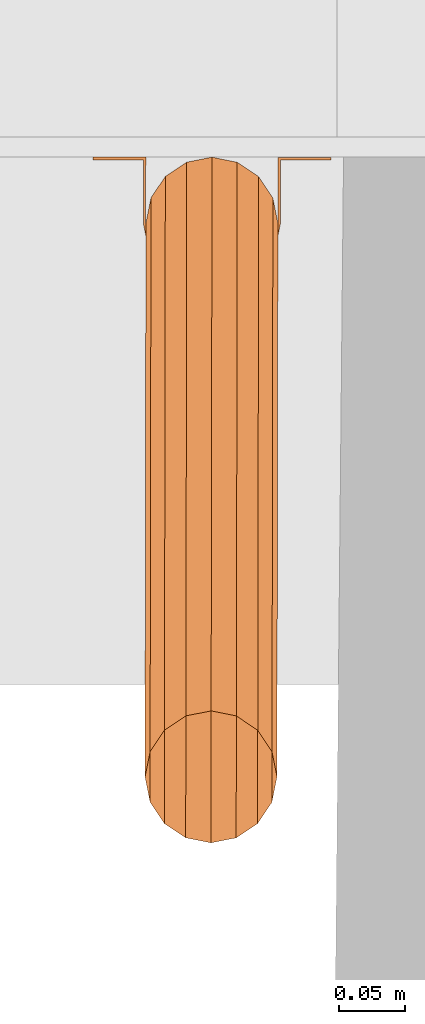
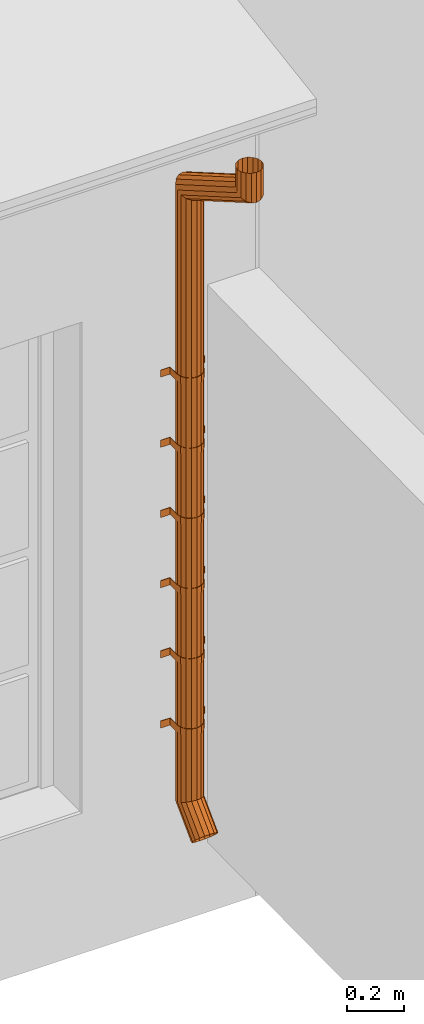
# One storey, part 24 of 24: 1 proxy.
"""IFC2X3 building model written with IfcOpenShell, lengths in metres."""

from ifc_helpers import new_model, entity, si_unit, converted_unit, derived_unit, money_unit, direction, frame, origin_with_axes, place, context, subcontext, project, spatial, open_shell, faceted_brep, surface_model, type_object, element, save


model = new_model("IFC2X3")

# Units and contexts
model_context = context("Model", 3, precision=1e-05, world=origin_with_axes(), true_north=direction((0.0, 1.0)))
body_context = subcontext(model_context, "Body", "Model", "MODEL_VIEW")
ifc_project = project(units=[si_unit("LENGTHUNIT", "METRE"), si_unit("AREAUNIT", "SQUARE_METRE"), si_unit("VOLUMEUNIT", "CUBIC_METRE"), converted_unit("PLANEANGLEUNIT", "DEGREE", entity("IfcPlaneAngleMeasure", 0.0174532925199), si_unit("PLANEANGLEUNIT", "RADIAN"), dimensions=[0, 0, 0, 0, 0, 0, 0]), si_unit("SOLIDANGLEUNIT", "STERADIAN"), money_unit("CHF"), converted_unit("TIMEUNIT", "Year", entity("IfcTimeMeasure", 31556926.0), si_unit("TIMEUNIT", "SECOND"), dimensions=[0, 0, 1, 0, 0, 0, 0]), si_unit("MASSUNIT", "GRAM", prefix="KILO"), si_unit("THERMODYNAMICTEMPERATUREUNIT", "DEGREE_CELSIUS"), si_unit("LUMINOUSINTENSITYUNIT", "LUMEN"), si_unit("ENERGYUNIT", "JOULE", prefix="MEGA"), derived_unit("THERMALCONDUCTANCEUNIT", [(si_unit("POWERUNIT", "WATT"), 1), (si_unit("LENGTHUNIT", "METRE"), -1), (si_unit("THERMODYNAMICTEMPERATUREUNIT", "KELVIN"), -1)]), derived_unit("SPECIFICHEATCAPACITYUNIT", [(si_unit("ENERGYUNIT", "JOULE"), 1), (si_unit("MASSUNIT", "GRAM", prefix="KILO"), -1), (si_unit("THERMODYNAMICTEMPERATUREUNIT", "KELVIN"), -1)]), derived_unit("MASSDENSITYUNIT", [(si_unit("MASSUNIT", "GRAM", prefix="KILO"), 1), (si_unit("VOLUMEUNIT", "CUBIC_METRE"), -1)])], contexts=[model_context])

# Site, building, storey
site_placement = place(None, origin_with_axes())
site = spatial("IfcSite", under=ifc_project, at=site_placement, Name="Site", CompositionType="ELEMENT")
building_placement = place(site_placement, origin_with_axes())
building = spatial("IfcBuilding", under=site, at=building_placement, Name="Bâtiment", CompositionType="ELEMENT")
storey_placement = place(building_placement, origin_with_axes())
storey = spatial("IfcBuildingStorey", under=building, at=storey_placement, Name="Rez-de-chaussée", CompositionType="ELEMENT", Elevation=0.0)

# Proxy
building_element_proxy_type = type_object("IfcBuildingElementProxyType", Name="Tuyau descente complexe 24", PredefinedType="USERDEFINED")
proxy_placement = place(storey_placement, frame((31.1773585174, 7.6876498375, -0.187059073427), z_axis=(0.0, 0.0, 1.0), x_axis=(0.999998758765, -0.00157558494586, 0.0)))
element("IfcBuildingElementProxy", 1, at=proxy_placement, inside=storey, type_object=building_element_proxy_type, Name="MOBILIER-004", ObjectType="CONSTRUCTION ELEMENT", context=body_context, shape_type="SurfaceModel", body=[
    surface_model("IfcShellBasedSurfaceModel", [(-0.05, 0.0, 0.241421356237), (-0.0461939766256, 0.0191341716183, 0.241421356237), (-0.0461939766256, 0.0191341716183, 0.133495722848), (-0.05, 0.0, 0.141421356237), (-0.0353553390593, 0.0353553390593, 0.241421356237), (-0.0353553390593, 0.0353553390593, 0.126776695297), (-0.0461939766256, -0.0925361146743, 0.0218254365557), (-0.05, -0.106066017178, 0.0353553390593), (-0.0461939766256, -0.0191341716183, 0.241421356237), (-0.0461939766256, -0.0191341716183, 0.149346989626), (-0.0191341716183, 0.0461939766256, 0.241421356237), (-0.0191341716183, 0.0461939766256, 0.122287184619), (-0.0353553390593, -0.081066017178, 0.0103553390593), (-0.0461939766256, -0.119595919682, 0.048885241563), (-0.0353553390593, -0.0353553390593, 0.241421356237), (-0.0353553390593, -0.0353553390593, 0.156066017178), (0.0, 0.05, 0.241421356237), (0.0, 0.05, 0.120710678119), (-0.0191341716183, -0.0734019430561, 0.00269126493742), (-0.0353553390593, -0.131066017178, 0.0603553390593), (-0.0191341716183, -0.0461939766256, 0.241421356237), (-0.0191341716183, -0.0461939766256, 0.160555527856), (0.0191341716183, 0.0461939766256, 0.241421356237), (0.0191341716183, 0.0461939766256, 0.122287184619), (0.0, -0.0707106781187, 0.0), (-0.0191341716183, -0.1387300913, 0.0680194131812), (0.0, -0.05, 0.241421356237), (0.0, -0.05, 0.162132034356), (0.0353553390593, 0.0353553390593, 0.241421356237), (0.0353553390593, 0.0353553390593, 0.126776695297), (0.0191341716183, -0.0734019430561, 0.00269126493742), (0.0, -0.141421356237, 0.0707106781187), (0.0191341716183, -0.0461939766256, 0.241421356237), (0.0191341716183, -0.0461939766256, 0.160555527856), (0.0461939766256, 0.0191341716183, 0.241421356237), (0.0461939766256, 0.0191341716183, 0.133495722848), (0.0353553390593, -0.081066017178, 0.0103553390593), (0.0191341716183, -0.1387300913, 0.0680194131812), (0.0353553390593, -0.0353553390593, 0.241421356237), (0.0353553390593, -0.0353553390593, 0.156066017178), (0.05, 0.0, 0.241421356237), (0.05, 0.0, 0.141421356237), (0.0461939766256, -0.0925361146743, 0.0218254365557), (0.0353553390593, -0.131066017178, 0.0603553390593), (0.0461939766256, -0.0191341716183, 0.241421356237), (0.0461939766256, -0.0191341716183, 0.149346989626), (0.05, -0.106066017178, 0.0353553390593), (0.0461939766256, -0.119595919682, 0.048885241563)], [open_shell([[[0, 1, 2, 3]], [[1, 4, 5, 2]], [[3, 2, 6, 7]], [[8, 0, 3, 9]], [[4, 10, 11, 5]], [[2, 5, 12, 6]], [[9, 3, 7, 13]], [[14, 8, 9, 15]], [[10, 16, 17, 11]], [[5, 11, 18, 12]], [[15, 9, 13, 19]], [[20, 14, 15, 21]], [[16, 22, 23, 17]], [[11, 17, 24, 18]], [[21, 15, 19, 25]], [[26, 20, 21, 27]], [[22, 28, 29, 23]], [[17, 23, 30, 24]], [[27, 21, 25, 31]], [[32, 26, 27, 33]], [[28, 34, 35, 29]], [[23, 29, 36, 30]], [[33, 27, 31, 37]], [[38, 32, 33, 39]], [[34, 40, 41, 35]], [[29, 35, 42, 36]], [[39, 33, 37, 43]], [[44, 38, 39, 45]], [[40, 44, 45, 41]], [[35, 41, 46, 42]], [[45, 39, 43, 47]], [[41, 45, 47, 46]]])]),
    surface_model("IfcShellBasedSurfaceModel", [(0.05, 0.0, 2.2), (0.0461939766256, -0.0191341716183, 2.2), (0.0461939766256, -0.0191341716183, 0.241421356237), (0.05, 0.0, 0.241421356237), (0.0353553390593, -0.0353553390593, 2.2), (0.0353553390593, -0.0353553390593, 0.241421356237), (0.0461939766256, 0.0191341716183, 2.2), (0.0461939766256, 0.0191341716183, 0.241421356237), (0.0191341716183, -0.0461939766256, 2.2), (0.0191341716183, -0.0461939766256, 0.241421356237), (0.0353553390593, 0.0353553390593, 2.2), (0.0353553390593, 0.0353553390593, 0.241421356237), (0.0, -0.05, 2.2), (0.0, -0.05, 0.241421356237), (0.0191341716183, 0.0461939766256, 2.2), (0.0191341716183, 0.0461939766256, 0.241421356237), (-0.0191341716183, -0.0461939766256, 2.2), (-0.0191341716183, -0.0461939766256, 0.241421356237), (0.0, 0.05, 2.2), (0.0, 0.05, 0.241421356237), (-0.0353553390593, -0.0353553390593, 2.2), (-0.0353553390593, -0.0353553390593, 0.241421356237), (-0.0191341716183, 0.0461939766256, 2.2), (-0.0191341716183, 0.0461939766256, 0.241421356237), (-0.0461939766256, -0.0191341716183, 2.2), (-0.0461939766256, -0.0191341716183, 0.241421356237), (-0.0353553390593, 0.0353553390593, 2.2), (-0.0353553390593, 0.0353553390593, 0.241421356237), (-0.05, 0.0, 2.2), (-0.05, 0.0, 0.241421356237), (-0.0461939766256, 0.0191341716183, 2.2), (-0.0461939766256, 0.0191341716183, 0.241421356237)], [open_shell([[[0, 1, 2, 3]], [[1, 4, 5, 2]], [[6, 0, 3, 7]], [[4, 8, 9, 5]], [[10, 6, 7, 11]], [[8, 12, 13, 9]], [[14, 10, 11, 15]], [[12, 16, 17, 13]], [[18, 14, 15, 19]], [[16, 20, 21, 17]], [[22, 18, 19, 23]], [[20, 24, 25, 21]], [[26, 22, 23, 27]], [[24, 28, 29, 25]], [[30, 26, 27, 31]], [[28, 30, 31, 29]]])]),
    faceted_brep([(-0.09, 0.0479, 0.441421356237), (-0.052, 0.0479, 0.441421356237), (-0.052, 0.0479, 0.471421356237), (-0.09, 0.0479, 0.471421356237), (-0.09, 0.0499, 0.441421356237), (-0.0502, 0.0499, 0.441421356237), (-0.0502, -0.0001, 0.441421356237), (-0.0463787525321, -0.0193107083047, 0.441421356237), (-0.0354967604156, -0.0355967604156, 0.441421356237), (-0.0192107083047, -0.0464787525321, 0.441421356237), (0.0, -0.0503, 0.441421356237), (0.0192107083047, -0.0464787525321, 0.441421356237), (0.0354967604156, -0.0355967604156, 0.441421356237), (0.0463787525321, -0.0193107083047, 0.441421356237), (0.0502, -0.0001, 0.441421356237), (0.0502, 0.0499, 0.441421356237), (0.09, 0.0499, 0.441421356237), (0.09, 0.0479, 0.441421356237), (0.052, 0.0479, 0.441421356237), (0.052, -0.0001, 0.441421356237), (0.0480417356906, -0.019999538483, 0.441421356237), (0.0367695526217, -0.0368695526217, 0.441421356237), (0.019899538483, -0.0481417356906, 0.441421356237), (0.0, -0.0521, 0.441421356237), (-0.019899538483, -0.0481417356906, 0.441421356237), (-0.0367695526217, -0.0368695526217, 0.441421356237), (-0.0480417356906, -0.019999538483, 0.441421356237), (-0.052, -0.0001, 0.441421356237), (-0.052, -0.0001, 0.471421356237), (-0.0480417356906, -0.019999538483, 0.471421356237), (-0.0367695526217, -0.0368695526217, 0.471421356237), (-0.019899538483, -0.0481417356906, 0.471421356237), (0.0, -0.0521, 0.471421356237), (0.019899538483, -0.0481417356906, 0.471421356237), (0.0367695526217, -0.0368695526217, 0.471421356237), (0.0480417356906, -0.019999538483, 0.471421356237), (0.052, -0.0001, 0.471421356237), (0.052, 0.0479, 0.471421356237), (0.09, 0.0479, 0.471421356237), (0.09, 0.0499, 0.471421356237), (0.0502, 0.0499, 0.471421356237), (0.0502, -0.0001, 0.471421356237), (0.0463787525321, -0.0193107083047, 0.471421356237), (0.0354967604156, -0.0355967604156, 0.471421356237), (0.0192107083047, -0.0464787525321, 0.471421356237), (0.0, -0.0503, 0.471421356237), (-0.0192107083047, -0.0464787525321, 0.471421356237), (-0.0354967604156, -0.0355967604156, 0.471421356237), (-0.0463787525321, -0.0193107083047, 0.471421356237), (-0.0502, -0.0001, 0.471421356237), (-0.0502, 0.0499, 0.471421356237), (-0.09, 0.0499, 0.471421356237)], [[[0, 1, 2, 3]], [[0, 4, 5, 6, 7, 8, 9, 10, 11, 12, 13, 14, 15, 16, 17, 18, 19, 20, 21, 22, 23, 24, 25, 26, 27, 1]], [[1, 27, 28, 2]], [[3, 2, 28, 29, 30, 31, 32, 33, 34, 35, 36, 37, 38, 39, 40, 41, 42, 43, 44, 45, 46, 47, 48, 49, 50, 51]], [[4, 0, 3, 51]], [[5, 4, 51, 50]], [[6, 5, 50, 49]], [[7, 6, 49, 48]], [[8, 7, 48, 47]], [[9, 8, 47, 46]], [[10, 9, 46, 45]], [[11, 10, 45, 44]], [[12, 11, 44, 43]], [[13, 12, 43, 42]], [[14, 13, 42, 41]], [[15, 14, 41, 40]], [[16, 15, 40, 39]], [[17, 16, 39, 38]], [[18, 17, 38, 37]], [[19, 18, 37, 36]], [[20, 19, 36, 35]], [[21, 20, 35, 34]], [[22, 21, 34, 33]], [[23, 22, 33, 32]], [[24, 23, 32, 31]], [[25, 24, 31, 30]], [[26, 25, 30, 29]], [[27, 26, 29, 28]]]),
    faceted_brep([(-0.09, 0.0479, 0.741421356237), (-0.052, 0.0479, 0.741421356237), (-0.052, 0.0479, 0.771421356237), (-0.09, 0.0479, 0.771421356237), (-0.09, 0.0499, 0.741421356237), (-0.0502, 0.0499, 0.741421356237), (-0.0502, -0.0001, 0.741421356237), (-0.0463787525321, -0.0193107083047, 0.741421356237), (-0.0354967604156, -0.0355967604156, 0.741421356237), (-0.0192107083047, -0.0464787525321, 0.741421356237), (0.0, -0.0503, 0.741421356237), (0.0192107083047, -0.0464787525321, 0.741421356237), (0.0354967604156, -0.0355967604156, 0.741421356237), (0.0463787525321, -0.0193107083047, 0.741421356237), (0.0502, -0.0001, 0.741421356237), (0.0502, 0.0499, 0.741421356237), (0.09, 0.0499, 0.741421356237), (0.09, 0.0479, 0.741421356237), (0.052, 0.0479, 0.741421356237), (0.052, -0.0001, 0.741421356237), (0.0480417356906, -0.019999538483, 0.741421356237), (0.0367695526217, -0.0368695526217, 0.741421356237), (0.019899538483, -0.0481417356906, 0.741421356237), (0.0, -0.0521, 0.741421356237), (-0.019899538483, -0.0481417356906, 0.741421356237), (-0.0367695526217, -0.0368695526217, 0.741421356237), (-0.0480417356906, -0.019999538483, 0.741421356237), (-0.052, -0.0001, 0.741421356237), (-0.052, -0.0001, 0.771421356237), (-0.0480417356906, -0.019999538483, 0.771421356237), (-0.0367695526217, -0.0368695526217, 0.771421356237), (-0.019899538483, -0.0481417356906, 0.771421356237), (0.0, -0.0521, 0.771421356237), (0.019899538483, -0.0481417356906, 0.771421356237), (0.0367695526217, -0.0368695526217, 0.771421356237), (0.0480417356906, -0.019999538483, 0.771421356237), (0.052, -0.0001, 0.771421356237), (0.052, 0.0479, 0.771421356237), (0.09, 0.0479, 0.771421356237), (0.09, 0.0499, 0.771421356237), (0.0502, 0.0499, 0.771421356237), (0.0502, -0.0001, 0.771421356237), (0.0463787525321, -0.0193107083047, 0.771421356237), (0.0354967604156, -0.0355967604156, 0.771421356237), (0.0192107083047, -0.0464787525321, 0.771421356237), (0.0, -0.0503, 0.771421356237), (-0.0192107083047, -0.0464787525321, 0.771421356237), (-0.0354967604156, -0.0355967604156, 0.771421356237), (-0.0463787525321, -0.0193107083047, 0.771421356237), (-0.0502, -0.0001, 0.771421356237), (-0.0502, 0.0499, 0.771421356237), (-0.09, 0.0499, 0.771421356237)], [[[0, 1, 2, 3]], [[0, 4, 5, 6, 7, 8, 9, 10, 11, 12, 13, 14, 15, 16, 17, 18, 19, 20, 21, 22, 23, 24, 25, 26, 27, 1]], [[1, 27, 28, 2]], [[3, 2, 28, 29, 30, 31, 32, 33, 34, 35, 36, 37, 38, 39, 40, 41, 42, 43, 44, 45, 46, 47, 48, 49, 50, 51]], [[4, 0, 3, 51]], [[5, 4, 51, 50]], [[6, 5, 50, 49]], [[7, 6, 49, 48]], [[8, 7, 48, 47]], [[9, 8, 47, 46]], [[10, 9, 46, 45]], [[11, 10, 45, 44]], [[12, 11, 44, 43]], [[13, 12, 43, 42]], [[14, 13, 42, 41]], [[15, 14, 41, 40]], [[16, 15, 40, 39]], [[17, 16, 39, 38]], [[18, 17, 38, 37]], [[19, 18, 37, 36]], [[20, 19, 36, 35]], [[21, 20, 35, 34]], [[22, 21, 34, 33]], [[23, 22, 33, 32]], [[24, 23, 32, 31]], [[25, 24, 31, 30]], [[26, 25, 30, 29]], [[27, 26, 29, 28]]]),
    faceted_brep([(-0.09, 0.0479, 1.04142135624), (-0.052, 0.0479, 1.04142135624), (-0.052, 0.0479, 1.07142135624), (-0.09, 0.0479, 1.07142135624), (-0.09, 0.0499, 1.04142135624), (-0.0502, 0.0499, 1.04142135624), (-0.0502, -0.0001, 1.04142135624), (-0.0463787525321, -0.0193107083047, 1.04142135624), (-0.0354967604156, -0.0355967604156, 1.04142135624), (-0.0192107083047, -0.0464787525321, 1.04142135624), (0.0, -0.0503, 1.04142135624), (0.0192107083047, -0.0464787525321, 1.04142135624), (0.0354967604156, -0.0355967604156, 1.04142135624), (0.0463787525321, -0.0193107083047, 1.04142135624), (0.0502, -0.0001, 1.04142135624), (0.0502, 0.0499, 1.04142135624), (0.09, 0.0499, 1.04142135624), (0.09, 0.0479, 1.04142135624), (0.052, 0.0479, 1.04142135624), (0.052, -0.0001, 1.04142135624), (0.0480417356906, -0.019999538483, 1.04142135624), (0.0367695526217, -0.0368695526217, 1.04142135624), (0.019899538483, -0.0481417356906, 1.04142135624), (0.0, -0.0521, 1.04142135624), (-0.019899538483, -0.0481417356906, 1.04142135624), (-0.0367695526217, -0.0368695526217, 1.04142135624), (-0.0480417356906, -0.019999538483, 1.04142135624), (-0.052, -0.0001, 1.04142135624), (-0.052, -0.0001, 1.07142135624), (-0.0480417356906, -0.019999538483, 1.07142135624), (-0.0367695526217, -0.0368695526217, 1.07142135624), (-0.019899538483, -0.0481417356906, 1.07142135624), (0.0, -0.0521, 1.07142135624), (0.019899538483, -0.0481417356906, 1.07142135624), (0.0367695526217, -0.0368695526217, 1.07142135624), (0.0480417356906, -0.019999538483, 1.07142135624), (0.052, -0.0001, 1.07142135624), (0.052, 0.0479, 1.07142135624), (0.09, 0.0479, 1.07142135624), (0.09, 0.0499, 1.07142135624), (0.0502, 0.0499, 1.07142135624), (0.0502, -0.0001, 1.07142135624), (0.0463787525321, -0.0193107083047, 1.07142135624), (0.0354967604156, -0.0355967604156, 1.07142135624), (0.0192107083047, -0.0464787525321, 1.07142135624), (0.0, -0.0503, 1.07142135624), (-0.0192107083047, -0.0464787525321, 1.07142135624), (-0.0354967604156, -0.0355967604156, 1.07142135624), (-0.0463787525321, -0.0193107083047, 1.07142135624), (-0.0502, -0.0001, 1.07142135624), (-0.0502, 0.0499, 1.07142135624), (-0.09, 0.0499, 1.07142135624)], [[[0, 1, 2, 3]], [[0, 4, 5, 6, 7, 8, 9, 10, 11, 12, 13, 14, 15, 16, 17, 18, 19, 20, 21, 22, 23, 24, 25, 26, 27, 1]], [[1, 27, 28, 2]], [[3, 2, 28, 29, 30, 31, 32, 33, 34, 35, 36, 37, 38, 39, 40, 41, 42, 43, 44, 45, 46, 47, 48, 49, 50, 51]], [[4, 0, 3, 51]], [[5, 4, 51, 50]], [[6, 5, 50, 49]], [[7, 6, 49, 48]], [[8, 7, 48, 47]], [[9, 8, 47, 46]], [[10, 9, 46, 45]], [[11, 10, 45, 44]], [[12, 11, 44, 43]], [[13, 12, 43, 42]], [[14, 13, 42, 41]], [[15, 14, 41, 40]], [[16, 15, 40, 39]], [[17, 16, 39, 38]], [[18, 17, 38, 37]], [[19, 18, 37, 36]], [[20, 19, 36, 35]], [[21, 20, 35, 34]], [[22, 21, 34, 33]], [[23, 22, 33, 32]], [[24, 23, 32, 31]], [[25, 24, 31, 30]], [[26, 25, 30, 29]], [[27, 26, 29, 28]]]),
    faceted_brep([(-0.09, 0.0479, 1.34142135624), (-0.052, 0.0479, 1.34142135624), (-0.052, 0.0479, 1.37142135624), (-0.09, 0.0479, 1.37142135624), (-0.09, 0.0499, 1.34142135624), (-0.0502, 0.0499, 1.34142135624), (-0.0502, -0.0001, 1.34142135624), (-0.0463787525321, -0.0193107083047, 1.34142135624), (-0.0354967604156, -0.0355967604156, 1.34142135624), (-0.0192107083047, -0.0464787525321, 1.34142135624), (0.0, -0.0503, 1.34142135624), (0.0192107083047, -0.0464787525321, 1.34142135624), (0.0354967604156, -0.0355967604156, 1.34142135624), (0.0463787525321, -0.0193107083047, 1.34142135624), (0.0502, -0.0001, 1.34142135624), (0.0502, 0.0499, 1.34142135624), (0.09, 0.0499, 1.34142135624), (0.09, 0.0479, 1.34142135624), (0.052, 0.0479, 1.34142135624), (0.052, -0.0001, 1.34142135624), (0.0480417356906, -0.019999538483, 1.34142135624), (0.0367695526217, -0.0368695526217, 1.34142135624), (0.019899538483, -0.0481417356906, 1.34142135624), (0.0, -0.0521, 1.34142135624), (-0.019899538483, -0.0481417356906, 1.34142135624), (-0.0367695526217, -0.0368695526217, 1.34142135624), (-0.0480417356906, -0.019999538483, 1.34142135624), (-0.052, -0.0001, 1.34142135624), (-0.052, -0.0001, 1.37142135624), (-0.0480417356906, -0.019999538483, 1.37142135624), (-0.0367695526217, -0.0368695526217, 1.37142135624), (-0.019899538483, -0.0481417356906, 1.37142135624), (0.0, -0.0521, 1.37142135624), (0.019899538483, -0.0481417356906, 1.37142135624), (0.0367695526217, -0.0368695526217, 1.37142135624), (0.0480417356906, -0.019999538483, 1.37142135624), (0.052, -0.0001, 1.37142135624), (0.052, 0.0479, 1.37142135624), (0.09, 0.0479, 1.37142135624), (0.09, 0.0499, 1.37142135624), (0.0502, 0.0499, 1.37142135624), (0.0502, -0.0001, 1.37142135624), (0.0463787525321, -0.0193107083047, 1.37142135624), (0.0354967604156, -0.0355967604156, 1.37142135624), (0.0192107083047, -0.0464787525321, 1.37142135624), (0.0, -0.0503, 1.37142135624), (-0.0192107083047, -0.0464787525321, 1.37142135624), (-0.0354967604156, -0.0355967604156, 1.37142135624), (-0.0463787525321, -0.0193107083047, 1.37142135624), (-0.0502, -0.0001, 1.37142135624), (-0.0502, 0.0499, 1.37142135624), (-0.09, 0.0499, 1.37142135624)], [[[0, 1, 2, 3]], [[0, 4, 5, 6, 7, 8, 9, 10, 11, 12, 13, 14, 15, 16, 17, 18, 19, 20, 21, 22, 23, 24, 25, 26, 27, 1]], [[1, 27, 28, 2]], [[3, 2, 28, 29, 30, 31, 32, 33, 34, 35, 36, 37, 38, 39, 40, 41, 42, 43, 44, 45, 46, 47, 48, 49, 50, 51]], [[4, 0, 3, 51]], [[5, 4, 51, 50]], [[6, 5, 50, 49]], [[7, 6, 49, 48]], [[8, 7, 48, 47]], [[9, 8, 47, 46]], [[10, 9, 46, 45]], [[11, 10, 45, 44]], [[12, 11, 44, 43]], [[13, 12, 43, 42]], [[14, 13, 42, 41]], [[15, 14, 41, 40]], [[16, 15, 40, 39]], [[17, 16, 39, 38]], [[18, 17, 38, 37]], [[19, 18, 37, 36]], [[20, 19, 36, 35]], [[21, 20, 35, 34]], [[22, 21, 34, 33]], [[23, 22, 33, 32]], [[24, 23, 32, 31]], [[25, 24, 31, 30]], [[26, 25, 30, 29]], [[27, 26, 29, 28]]]),
    faceted_brep([(-0.09, 0.0479, 1.64142135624), (-0.052, 0.0479, 1.64142135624), (-0.052, 0.0479, 1.67142135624), (-0.09, 0.0479, 1.67142135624), (-0.09, 0.0499, 1.64142135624), (-0.0502, 0.0499, 1.64142135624), (-0.0502, -0.0001, 1.64142135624), (-0.0463787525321, -0.0193107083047, 1.64142135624), (-0.0354967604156, -0.0355967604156, 1.64142135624), (-0.0192107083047, -0.0464787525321, 1.64142135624), (0.0, -0.0503, 1.64142135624), (0.0192107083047, -0.0464787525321, 1.64142135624), (0.0354967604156, -0.0355967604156, 1.64142135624), (0.0463787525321, -0.0193107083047, 1.64142135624), (0.0502, -0.0001, 1.64142135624), (0.0502, 0.0499, 1.64142135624), (0.09, 0.0499, 1.64142135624), (0.09, 0.0479, 1.64142135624), (0.052, 0.0479, 1.64142135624), (0.052, -0.0001, 1.64142135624), (0.0480417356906, -0.019999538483, 1.64142135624), (0.0367695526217, -0.0368695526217, 1.64142135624), (0.019899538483, -0.0481417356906, 1.64142135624), (0.0, -0.0521, 1.64142135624), (-0.019899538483, -0.0481417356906, 1.64142135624), (-0.0367695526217, -0.0368695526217, 1.64142135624), (-0.0480417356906, -0.019999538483, 1.64142135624), (-0.052, -0.0001, 1.64142135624), (-0.052, -0.0001, 1.67142135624), (-0.0480417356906, -0.019999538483, 1.67142135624), (-0.0367695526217, -0.0368695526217, 1.67142135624), (-0.019899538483, -0.0481417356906, 1.67142135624), (0.0, -0.0521, 1.67142135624), (0.019899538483, -0.0481417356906, 1.67142135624), (0.0367695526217, -0.0368695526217, 1.67142135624), (0.0480417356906, -0.019999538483, 1.67142135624), (0.052, -0.0001, 1.67142135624), (0.052, 0.0479, 1.67142135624), (0.09, 0.0479, 1.67142135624), (0.09, 0.0499, 1.67142135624), (0.0502, 0.0499, 1.67142135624), (0.0502, -0.0001, 1.67142135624), (0.0463787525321, -0.0193107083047, 1.67142135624), (0.0354967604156, -0.0355967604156, 1.67142135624), (0.0192107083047, -0.0464787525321, 1.67142135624), (0.0, -0.0503, 1.67142135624), (-0.0192107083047, -0.0464787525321, 1.67142135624), (-0.0354967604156, -0.0355967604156, 1.67142135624), (-0.0463787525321, -0.0193107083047, 1.67142135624), (-0.0502, -0.0001, 1.67142135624), (-0.0502, 0.0499, 1.67142135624), (-0.09, 0.0499, 1.67142135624)], [[[0, 1, 2, 3]], [[0, 4, 5, 6, 7, 8, 9, 10, 11, 12, 13, 14, 15, 16, 17, 18, 19, 20, 21, 22, 23, 24, 25, 26, 27, 1]], [[1, 27, 28, 2]], [[3, 2, 28, 29, 30, 31, 32, 33, 34, 35, 36, 37, 38, 39, 40, 41, 42, 43, 44, 45, 46, 47, 48, 49, 50, 51]], [[4, 0, 3, 51]], [[5, 4, 51, 50]], [[6, 5, 50, 49]], [[7, 6, 49, 48]], [[8, 7, 48, 47]], [[9, 8, 47, 46]], [[10, 9, 46, 45]], [[11, 10, 45, 44]], [[12, 11, 44, 43]], [[13, 12, 43, 42]], [[14, 13, 42, 41]], [[15, 14, 41, 40]], [[16, 15, 40, 39]], [[17, 16, 39, 38]], [[18, 17, 38, 37]], [[19, 18, 37, 36]], [[20, 19, 36, 35]], [[21, 20, 35, 34]], [[22, 21, 34, 33]], [[23, 22, 33, 32]], [[24, 23, 32, 31]], [[25, 24, 31, 30]], [[26, 25, 30, 29]], [[27, 26, 29, 28]]]),
    faceted_brep([(-0.09, 0.0479, 1.94142135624), (-0.052, 0.0479, 1.94142135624), (-0.052, 0.0479, 1.97142135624), (-0.09, 0.0479, 1.97142135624), (-0.09, 0.0499, 1.94142135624), (-0.0502, 0.0499, 1.94142135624), (-0.0502, -0.0001, 1.94142135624), (-0.0463787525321, -0.0193107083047, 1.94142135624), (-0.0354967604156, -0.0355967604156, 1.94142135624), (-0.0192107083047, -0.0464787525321, 1.94142135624), (0.0, -0.0503, 1.94142135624), (0.0192107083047, -0.0464787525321, 1.94142135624), (0.0354967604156, -0.0355967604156, 1.94142135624), (0.0463787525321, -0.0193107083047, 1.94142135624), (0.0502, -0.0001, 1.94142135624), (0.0502, 0.0499, 1.94142135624), (0.09, 0.0499, 1.94142135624), (0.09, 0.0479, 1.94142135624), (0.052, 0.0479, 1.94142135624), (0.052, -0.0001, 1.94142135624), (0.0480417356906, -0.019999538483, 1.94142135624), (0.0367695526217, -0.0368695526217, 1.94142135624), (0.019899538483, -0.0481417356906, 1.94142135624), (0.0, -0.0521, 1.94142135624), (-0.019899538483, -0.0481417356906, 1.94142135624), (-0.0367695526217, -0.0368695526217, 1.94142135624), (-0.0480417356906, -0.019999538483, 1.94142135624), (-0.052, -0.0001, 1.94142135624), (-0.052, -0.0001, 1.97142135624), (-0.0480417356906, -0.019999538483, 1.97142135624), (-0.0367695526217, -0.0368695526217, 1.97142135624), (-0.019899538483, -0.0481417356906, 1.97142135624), (0.0, -0.0521, 1.97142135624), (0.019899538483, -0.0481417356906, 1.97142135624), (0.0367695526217, -0.0368695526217, 1.97142135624), (0.0480417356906, -0.019999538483, 1.97142135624), (0.052, -0.0001, 1.97142135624), (0.052, 0.0479, 1.97142135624), (0.09, 0.0479, 1.97142135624), (0.09, 0.0499, 1.97142135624), (0.0502, 0.0499, 1.97142135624), (0.0502, -0.0001, 1.97142135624), (0.0463787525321, -0.0193107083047, 1.97142135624), (0.0354967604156, -0.0355967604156, 1.97142135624), (0.0192107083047, -0.0464787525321, 1.97142135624), (0.0, -0.0503, 1.97142135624), (-0.0192107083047, -0.0464787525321, 1.97142135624), (-0.0354967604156, -0.0355967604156, 1.97142135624), (-0.0463787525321, -0.0193107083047, 1.97142135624), (-0.0502, -0.0001, 1.97142135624), (-0.0502, 0.0499, 1.97142135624), (-0.09, 0.0499, 1.97142135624)], [[[0, 1, 2, 3]], [[0, 4, 5, 6, 7, 8, 9, 10, 11, 12, 13, 14, 15, 16, 17, 18, 19, 20, 21, 22, 23, 24, 25, 26, 27, 1]], [[1, 27, 28, 2]], [[3, 2, 28, 29, 30, 31, 32, 33, 34, 35, 36, 37, 38, 39, 40, 41, 42, 43, 44, 45, 46, 47, 48, 49, 50, 51]], [[4, 0, 3, 51]], [[5, 4, 51, 50]], [[6, 5, 50, 49]], [[7, 6, 49, 48]], [[8, 7, 48, 47]], [[9, 8, 47, 46]], [[10, 9, 46, 45]], [[11, 10, 45, 44]], [[12, 11, 44, 43]], [[13, 12, 43, 42]], [[14, 13, 42, 41]], [[15, 14, 41, 40]], [[16, 15, 40, 39]], [[17, 16, 39, 38]], [[18, 17, 38, 37]], [[19, 18, 37, 36]], [[20, 19, 36, 35]], [[21, 20, 35, 34]], [[22, 21, 34, 33]], [[23, 22, 33, 32]], [[24, 23, 32, 31]], [[25, 24, 31, 30]], [[26, 25, 30, 29]], [[27, 26, 29, 28]]]),
    surface_model("IfcShellBasedSurfaceModel", [(-0.05, -0.419636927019, 3.1), (-0.0461939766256, -0.400502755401, 3.1), (-0.0461939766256, -0.400502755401, 3.01103200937), (-0.05, -0.419636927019, 3.0), (-0.0353553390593, -0.38428158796, 3.1), (-0.0353553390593, -0.38428158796, 3.02038449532), (-0.0461939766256, 0.0191341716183, 2.7680910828), (-0.05, 0.0, 2.75705907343), (-0.0461939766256, -0.438771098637, 3.1), (-0.0461939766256, -0.438771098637, 2.98896799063), (-0.0191341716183, -0.373442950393, 3.1), (-0.0191341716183, -0.373442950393, 3.02663362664), (-0.0353553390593, 0.0353553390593, 2.77744356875), (-0.0461939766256, 0.0191341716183, 2.2), (-0.05, 0.0, 2.2), (-0.0461939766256, -0.0191341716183, 2.74602706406), (-0.0353553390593, -0.454992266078, 3.1), (-0.0353553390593, -0.454992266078, 2.97961550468), (0.0, -0.369636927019, 3.1), (0.0, -0.369636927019, 3.02882802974), (-0.0191341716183, 0.0461939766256, 2.78369270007), (-0.0353553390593, 0.0353553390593, 2.2), (-0.0461939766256, -0.0191341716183, 2.2), (-0.0353553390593, -0.0353553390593, 2.73667457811), (-0.0191341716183, -0.465830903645, 3.1), (-0.0191341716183, -0.465830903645, 2.97336637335), (0.0191341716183, -0.373442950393, 3.1), (0.0191341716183, -0.373442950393, 3.02663362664), (0.0, 0.05, 2.78588710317), (-0.0191341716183, 0.0461939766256, 2.2), (-0.0353553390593, -0.0353553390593, 2.2), (-0.0191341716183, -0.0461939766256, 2.73042544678), (0.0, -0.469636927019, 3.1), (0.0, -0.469636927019, 2.97117197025), (0.0353553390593, -0.38428158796, 3.1), (0.0353553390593, -0.38428158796, 3.02038449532), (0.0191341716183, 0.0461939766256, 2.78369270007), (0.0, 0.05, 2.2), (-0.0191341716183, -0.0461939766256, 2.2), (0.0, -0.05, 2.72823104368), (0.0191341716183, -0.465830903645, 3.1), (0.0191341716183, -0.465830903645, 2.97336637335), (0.0461939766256, -0.400502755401, 3.1), (0.0461939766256, -0.400502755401, 3.01103200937), (0.0353553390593, 0.0353553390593, 2.77744356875), (0.0191341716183, 0.0461939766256, 2.2), (0.0, -0.05, 2.2), (0.0191341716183, -0.0461939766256, 2.73042544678), (0.0353553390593, -0.454992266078, 3.1), (0.0353553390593, -0.454992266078, 2.97961550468), (0.05, -0.419636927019, 3.1), (0.05, -0.419636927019, 3.0), (0.0461939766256, 0.0191341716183, 2.7680910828), (0.0353553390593, 0.0353553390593, 2.2), (0.0191341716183, -0.0461939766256, 2.2), (0.0353553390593, -0.0353553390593, 2.73667457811), (0.0461939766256, -0.438771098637, 3.1), (0.0461939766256, -0.438771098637, 2.98896799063), (0.05, 0.0, 2.75705907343), (0.0461939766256, 0.0191341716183, 2.2), (0.0353553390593, -0.0353553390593, 2.2), (0.0461939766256, -0.0191341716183, 2.74602706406), (0.05, 0.0, 2.2), (0.0461939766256, -0.0191341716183, 2.2)], [open_shell([[[0, 1, 2, 3]], [[1, 4, 5, 2]], [[3, 2, 6, 7]], [[8, 0, 3, 9]], [[4, 10, 11, 5]], [[2, 5, 12, 6]], [[7, 6, 13, 14]], [[9, 3, 7, 15]], [[16, 8, 9, 17]], [[10, 18, 19, 11]], [[5, 11, 20, 12]], [[6, 12, 21, 13]], [[15, 7, 14, 22]], [[17, 9, 15, 23]], [[24, 16, 17, 25]], [[18, 26, 27, 19]], [[11, 19, 28, 20]], [[12, 20, 29, 21]], [[23, 15, 22, 30]], [[25, 17, 23, 31]], [[32, 24, 25, 33]], [[26, 34, 35, 27]], [[19, 27, 36, 28]], [[20, 28, 37, 29]], [[31, 23, 30, 38]], [[33, 25, 31, 39]], [[40, 32, 33, 41]], [[34, 42, 43, 35]], [[27, 35, 44, 36]], [[28, 36, 45, 37]], [[39, 31, 38, 46]], [[41, 33, 39, 47]], [[48, 40, 41, 49]], [[42, 50, 51, 43]], [[35, 43, 52, 44]], [[36, 44, 53, 45]], [[47, 39, 46, 54]], [[49, 41, 47, 55]], [[56, 48, 49, 57]], [[50, 56, 57, 51]], [[43, 51, 58, 52]], [[44, 52, 59, 53]], [[55, 47, 54, 60]], [[57, 49, 55, 61]], [[51, 57, 61, 58]], [[52, 58, 62, 59]], [[61, 55, 60, 63]], [[58, 61, 63, 62]]])]),
])

save(model, "model.ifc")
